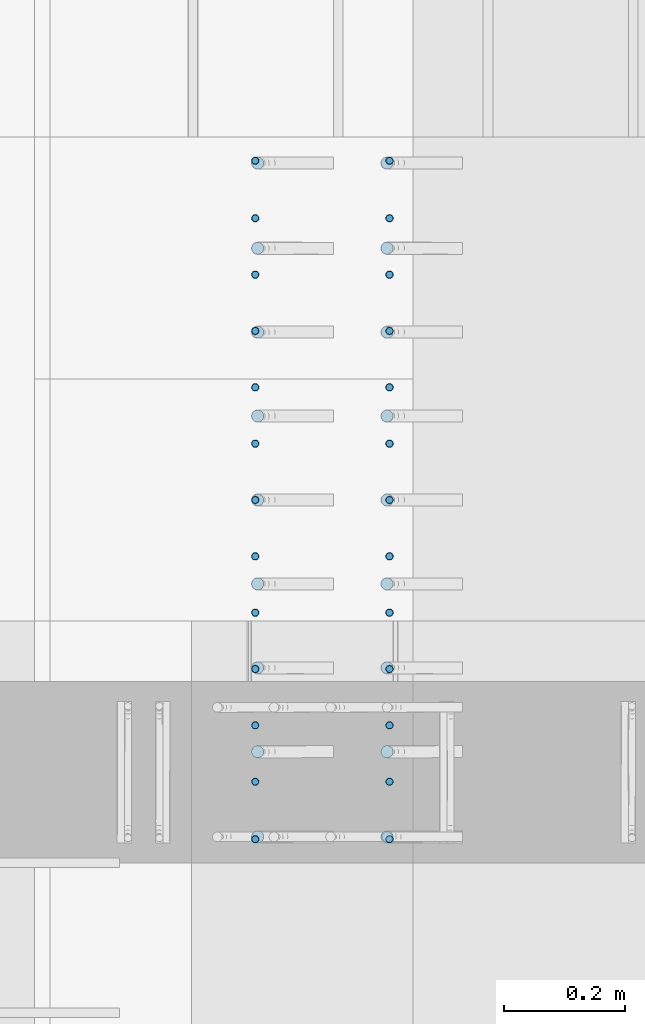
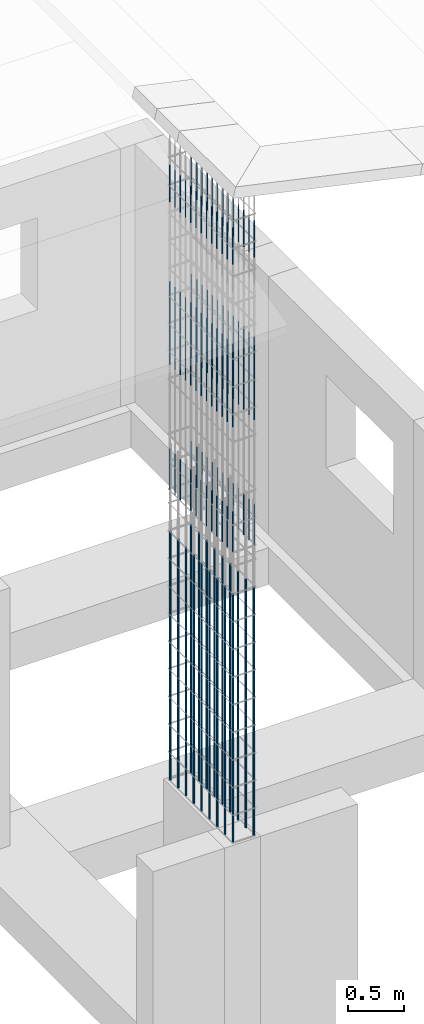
# One storey, part 7 of 15: 5 reinforcing bars.
"""IFC4 building model written with IfcOpenShell, lengths in metres."""

from ifc_helpers import new_model, entity, si_unit, origin_with_axes, place, context, project, spatial, source, transform, mapped, element, save


model = new_model("IFC4")

# Units and contexts
model_context = context("Model", 3, precision=1e-05, world=origin_with_axes())
ifc_project = project(units=[si_unit("LENGTHUNIT", "METRE"), si_unit("AREAUNIT", "SQUARE_METRE"), si_unit("VOLUMEUNIT", "CUBIC_METRE"), si_unit("MASSUNIT", "GRAM", prefix="KILO"), si_unit("TIMEUNIT", "SECOND"), si_unit("PLANEANGLEUNIT", "RADIAN"), si_unit("SOLIDANGLEUNIT", "STERADIAN"), si_unit("THERMODYNAMICTEMPERATUREUNIT", "DEGREE_CELSIUS")], contexts=[model_context])

# Site, building, storey
placement_1 = place(None, origin_with_axes())
site = spatial("IfcSite", under=ifc_project, at=placement_1, Name="Italia", CompositionType="ELEMENT")
building = spatial("IfcBuilding", under=site, at=placement_1, Name="Bifamiliare", CompositionType="ELEMENT")
storey = spatial("IfcBuildingStorey", under=building, at=placement_1, Name="Storey 0", CompositionType="ELEMENT", Elevation=0.0)

# Reinforcing bars
shared_shape_1 = source(origin_with_axes(), model_context, "Body", "AdvancedSweptSolid", [
    entity("IfcSweptDiskSolid", entity("IfcIndexedPolyCurve", entity("IfcCartesianPointList3D", [[10.757, 2.557, 2.8], [10.757, 2.557, 3.25]]), [entity("IfcLineIndex", [1, 2])], False), 0.01),
])
placement_2 = place(placement_1, origin_with_axes())
reinforcing_bar_1_placement = place(placement_2, origin_with_axes())
element("IfcReinforcingBar", 1, at=reinforcing_bar_1_placement, inside=storey, BarLength=0.45, CrossSectionArea=0.00031416, NominalDiameter=0.02, context=model_context, shape_type="MappedRepresentation", body=[
    mapped(shared_shape_1, transform((-0.214001, -0.2795, 0.45), x_axis=(1.0, 0.0, 0.0), y_axis=(0.0, 1.0, 0.0), z_axis=(0.0, 0.0, 1.0), scale=1.0)),
    mapped(shared_shape_1, transform((-0.214001, -0.14075, 0.45), x_axis=(1.0, 0.0, 0.0), y_axis=(0.0, 1.0, 0.0), z_axis=(0.0, 0.0, 1.0), scale=1.0)),
    mapped(shared_shape_1, transform((-0.214001, -0.69575, 0.45), x_axis=(1.0, 0.0, 0.0), y_axis=(0.0, 1.0, 0.0), z_axis=(0.0, 0.0, 1.0), scale=1.0)),
    mapped(shared_shape_1, transform((-0.214001, -0.69575, 0.9), x_axis=(1.0, 0.0, 0.0), y_axis=(0.0, 1.0, 0.0), z_axis=(0.0, 0.0, 1.0), scale=1.0)),
    mapped(shared_shape_1, transform((-0.214001, -0.8345, 0.9), x_axis=(1.0, 0.0, 0.0), y_axis=(0.0, 1.0, 0.0), z_axis=(0.0, 0.0, 1.0), scale=1.0)),
    mapped(shared_shape_1, transform((-0.214001, -0.557, 0.45), x_axis=(1.0, 0.0, 0.0), y_axis=(0.0, 1.0, 0.0), z_axis=(0.0, 0.0, 1.0), scale=1.0)),
    mapped(shared_shape_1, transform((-0.214001, 0.0, 0.45), x_axis=(1.0, 0.0, 0.0), y_axis=(0.0, 1.0, 0.0), z_axis=(0.0, 0.0, 1.0), scale=1.0)),
    mapped(shared_shape_1, transform((-0.214001, -0.8345, 0.45), x_axis=(1.0, 0.0, 0.0), y_axis=(0.0, 1.0, 0.0), z_axis=(0.0, 0.0, 1.0), scale=1.0)),
    mapped(shared_shape_1, transform((-0.214001, -0.97325, 0.45), x_axis=(1.0, 0.0, 0.0), y_axis=(0.0, 1.0, 0.0), z_axis=(0.0, 0.0, 1.0), scale=1.0)),
    mapped(shared_shape_1, transform((-0.214001, -0.41825, 0.45), x_axis=(1.0, 0.0, 0.0), y_axis=(0.0, 1.0, 0.0), z_axis=(0.0, 0.0, 1.0), scale=1.0)),
    mapped(shared_shape_1, transform((0.0, -0.2795, 0.0), x_axis=(1.0, 0.0, 0.0), y_axis=(0.0, 1.0, 0.0), z_axis=(0.0, 0.0, 1.0), scale=1.0)),
    mapped(shared_shape_1, transform((0.0, -1.114, 0.9), x_axis=(1.0, 0.0, 0.0), y_axis=(0.0, 1.0, 0.0), z_axis=(0.0, 0.0, 1.0), scale=1.0)),
    mapped(shared_shape_1, transform((0.0, -0.97325, 0.0), x_axis=(1.0, 0.0, 0.0), y_axis=(0.0, 1.0, 0.0), z_axis=(0.0, 0.0, 1.0), scale=1.0)),
    mapped(shared_shape_1, transform((-0.214001, -0.97325, 0.9), x_axis=(1.0, 0.0, 0.0), y_axis=(0.0, 1.0, 0.0), z_axis=(0.0, 0.0, 1.0), scale=1.0)),
    mapped(shared_shape_1, transform((-0.214001, -1.114, 0.0), x_axis=(1.0, 0.0, 0.0), y_axis=(0.0, 1.0, 0.0), z_axis=(0.0, 0.0, 1.0), scale=1.0)),
    mapped(shared_shape_1, transform((-0.214001, -0.69575, 0.0), x_axis=(1.0, 0.0, 0.0), y_axis=(0.0, 1.0, 0.0), z_axis=(0.0, 0.0, 1.0), scale=1.0)),
    mapped(shared_shape_1, transform((-0.214001, -0.8345, 0.0), x_axis=(1.0, 0.0, 0.0), y_axis=(0.0, 1.0, 0.0), z_axis=(0.0, 0.0, 1.0), scale=1.0)),
    mapped(shared_shape_1, transform((0.0, -0.69575, 0.0), x_axis=(1.0, 0.0, 0.0), y_axis=(0.0, 1.0, 0.0), z_axis=(0.0, 0.0, 1.0), scale=1.0)),
    mapped(shared_shape_1, transform((0.0, -0.14075, 0.0), x_axis=(1.0, 0.0, 0.0), y_axis=(0.0, 1.0, 0.0), z_axis=(0.0, 0.0, 1.0), scale=1.0)),
    mapped(shared_shape_1, transform((-0.214001, -0.97325, 0.0), x_axis=(1.0, 0.0, 0.0), y_axis=(0.0, 1.0, 0.0), z_axis=(0.0, 0.0, 1.0), scale=1.0)),
    mapped(shared_shape_1, transform((0.0, -0.69575, 0.45), x_axis=(1.0, 0.0, 0.0), y_axis=(0.0, 1.0, 0.0), z_axis=(0.0, 0.0, 1.0), scale=1.0)),
    mapped(shared_shape_1, transform((0.0, -0.557, 0.45), x_axis=(1.0, 0.0, 0.0), y_axis=(0.0, 1.0, 0.0), z_axis=(0.0, 0.0, 1.0), scale=1.0)),
    mapped(shared_shape_1, transform((0.0, -0.8345, 0.45), x_axis=(1.0, 0.0, 0.0), y_axis=(0.0, 1.0, 0.0), z_axis=(0.0, 0.0, 1.0), scale=1.0)),
    mapped(shared_shape_1, transform((-0.214001, -1.114, 0.45), x_axis=(1.0, 0.0, 0.0), y_axis=(0.0, 1.0, 0.0), z_axis=(0.0, 0.0, 1.0), scale=1.0)),
    mapped(shared_shape_1, transform((0.0, -0.557, 0.9), x_axis=(1.0, 0.0, 0.0), y_axis=(0.0, 1.0, 0.0), z_axis=(0.0, 0.0, 1.0), scale=1.0)),
    mapped(shared_shape_1, transform((0.0, -0.8345, 0.9), x_axis=(1.0, 0.0, 0.0), y_axis=(0.0, 1.0, 0.0), z_axis=(0.0, 0.0, 1.0), scale=1.0)),
    mapped(shared_shape_1, transform((0.0, -0.69575, 0.9), x_axis=(1.0, 0.0, 0.0), y_axis=(0.0, 1.0, 0.0), z_axis=(0.0, 0.0, 1.0), scale=1.0)),
    mapped(shared_shape_1, transform((0.0, -0.97325, 0.9), x_axis=(1.0, 0.0, 0.0), y_axis=(0.0, 1.0, 0.0), z_axis=(0.0, 0.0, 1.0), scale=1.0)),
    mapped(shared_shape_1, transform((-0.214001, -0.557, 0.9), x_axis=(1.0, 0.0, 0.0), y_axis=(0.0, 1.0, 0.0), z_axis=(0.0, 0.0, 1.0), scale=1.0)),
    mapped(shared_shape_1, transform((0.0, -0.41825, 0.0), x_axis=(1.0, 0.0, 0.0), y_axis=(0.0, 1.0, 0.0), z_axis=(0.0, 0.0, 1.0), scale=1.0)),
    mapped(shared_shape_1, transform((-0.214001, -0.557, 0.0), x_axis=(1.0, 0.0, 0.0), y_axis=(0.0, 1.0, 0.0), z_axis=(0.0, 0.0, 1.0), scale=1.0)),
    mapped(shared_shape_1, transform((0.0, -0.41825, 0.9), x_axis=(1.0, 0.0, 0.0), y_axis=(0.0, 1.0, 0.0), z_axis=(0.0, 0.0, 1.0), scale=1.0)),
    mapped(shared_shape_1, transform((0.0, -0.41825, 0.45), x_axis=(1.0, 0.0, 0.0), y_axis=(0.0, 1.0, 0.0), z_axis=(0.0, 0.0, 1.0), scale=1.0)),
    mapped(shared_shape_1, transform((-0.214001, -1.114, 0.9), x_axis=(1.0, 0.0, 0.0), y_axis=(0.0, 1.0, 0.0), z_axis=(0.0, 0.0, 1.0), scale=1.0)),
    mapped(shared_shape_1, transform((0.0, -0.41825, 1.35), x_axis=(1.0, 0.0, 0.0), y_axis=(0.0, 1.0, 0.0), z_axis=(0.0, 0.0, 1.0), scale=1.0)),
    mapped(shared_shape_1, transform((0.0, -0.557, 1.35), x_axis=(1.0, 0.0, 0.0), y_axis=(0.0, 1.0, 0.0), z_axis=(0.0, 0.0, 1.0), scale=1.0)),
    mapped(shared_shape_1, transform((0.0, -0.69575, 1.35), x_axis=(1.0, 0.0, 0.0), y_axis=(0.0, 1.0, 0.0), z_axis=(0.0, 0.0, 1.0), scale=1.0)),
    mapped(shared_shape_1, transform((0.0, -0.8345, 1.35), x_axis=(1.0, 0.0, 0.0), y_axis=(0.0, 1.0, 0.0), z_axis=(0.0, 0.0, 1.0), scale=1.0)),
    mapped(shared_shape_1, transform((0.0, -0.97325, 1.35), x_axis=(1.0, 0.0, 0.0), y_axis=(0.0, 1.0, 0.0), z_axis=(0.0, 0.0, 1.0), scale=1.0)),
    mapped(shared_shape_1, transform((0.0, -0.8345, 0.0), x_axis=(1.0, 0.0, 0.0), y_axis=(0.0, 1.0, 0.0), z_axis=(0.0, 0.0, 1.0), scale=1.0)),
    mapped(shared_shape_1, transform((-0.214001, -0.2795, 0.0), x_axis=(1.0, 0.0, 0.0), y_axis=(0.0, 1.0, 0.0), z_axis=(0.0, 0.0, 1.0), scale=1.0)),
    mapped(shared_shape_1, transform((-0.214001, 0.0, 1.8), x_axis=(1.0, 0.0, 0.0), y_axis=(0.0, 1.0, 0.0), z_axis=(0.0, 0.0, 1.0), scale=1.0)),
    mapped(shared_shape_1, transform((-0.214001, -0.2795, 0.9), x_axis=(1.0, 0.0, 0.0), y_axis=(0.0, 1.0, 0.0), z_axis=(0.0, 0.0, 1.0), scale=1.0)),
    mapped(shared_shape_1, transform((-0.214001, -0.41825, 0.9), x_axis=(1.0, 0.0, 0.0), y_axis=(0.0, 1.0, 0.0), z_axis=(0.0, 0.0, 1.0), scale=1.0)),
    mapped(shared_shape_1, transform((-0.214001, -0.8345, 1.8), x_axis=(1.0, 0.0, 0.0), y_axis=(0.0, 1.0, 0.0), z_axis=(0.0, 0.0, 1.0), scale=1.0)),
    mapped(shared_shape_1, transform((0.0, 0.0, 0.0), x_axis=(1.0, 0.0, 0.0), y_axis=(0.0, 1.0, 0.0), z_axis=(0.0, 0.0, 1.0), scale=1.0)),
    mapped(shared_shape_1, transform((-0.214001, -0.14075, 0.0), x_axis=(1.0, 0.0, 0.0), y_axis=(0.0, 1.0, 0.0), z_axis=(0.0, 0.0, 1.0), scale=1.0)),
    mapped(shared_shape_1, transform((-0.214001, -0.14075, 0.9), x_axis=(1.0, 0.0, 0.0), y_axis=(0.0, 1.0, 0.0), z_axis=(0.0, 0.0, 1.0), scale=1.0)),
    mapped(shared_shape_1, transform((0.0, -0.557, 0.0), x_axis=(1.0, 0.0, 0.0), y_axis=(0.0, 1.0, 0.0), z_axis=(0.0, 0.0, 1.0), scale=1.0)),
    mapped(shared_shape_1, transform((-0.214001, -0.2795, 1.8), x_axis=(1.0, 0.0, 0.0), y_axis=(0.0, 1.0, 0.0), z_axis=(0.0, 0.0, 1.0), scale=1.0)),
    mapped(shared_shape_1, transform((-0.214001, -0.557, 2.25), x_axis=(1.0, 0.0, 0.0), y_axis=(0.0, 1.0, 0.0), z_axis=(0.0, 0.0, 1.0), scale=1.0)),
    mapped(shared_shape_1, transform((-0.214001, -0.41825, 0.0), x_axis=(1.0, 0.0, 0.0), y_axis=(0.0, 1.0, 0.0), z_axis=(0.0, 0.0, 1.0), scale=1.0)),
    mapped(shared_shape_1, transform((0.0, 0.0, 1.35), x_axis=(1.0, 0.0, 0.0), y_axis=(0.0, 1.0, 0.0), z_axis=(0.0, 0.0, 1.0), scale=1.0)),
    mapped(shared_shape_1, transform((0.0, -0.2795, 1.35), x_axis=(1.0, 0.0, 0.0), y_axis=(0.0, 1.0, 0.0), z_axis=(0.0, 0.0, 1.0), scale=1.0)),
    mapped(shared_shape_1, transform((0.0, 0.0, 0.9), x_axis=(1.0, 0.0, 0.0), y_axis=(0.0, 1.0, 0.0), z_axis=(0.0, 0.0, 1.0), scale=1.0)),
    mapped(shared_shape_1, transform((0.0, -0.2795, 0.9), x_axis=(1.0, 0.0, 0.0), y_axis=(0.0, 1.0, 0.0), z_axis=(0.0, 0.0, 1.0), scale=1.0)),
    mapped(shared_shape_1, transform((0.0, -0.14075, 1.35), x_axis=(1.0, 0.0, 0.0), y_axis=(0.0, 1.0, 0.0), z_axis=(0.0, 0.0, 1.0), scale=1.0)),
    mapped(shared_shape_1, transform((0.0, -0.14075, 0.9), x_axis=(1.0, 0.0, 0.0), y_axis=(0.0, 1.0, 0.0), z_axis=(0.0, 0.0, 1.0), scale=1.0)),
    mapped(shared_shape_1, transform((0.0, -0.14075, 0.45), x_axis=(1.0, 0.0, 0.0), y_axis=(0.0, 1.0, 0.0), z_axis=(0.0, 0.0, 1.0), scale=1.0)),
    mapped(shared_shape_1, transform((0.0, 0.0, 0.45), x_axis=(1.0, 0.0, 0.0), y_axis=(0.0, 1.0, 0.0), z_axis=(0.0, 0.0, 1.0), scale=1.0)),
    mapped(shared_shape_1, transform((0.0, -0.2795, 0.45), x_axis=(1.0, 0.0, 0.0), y_axis=(0.0, 1.0, 0.0), z_axis=(0.0, 0.0, 1.0), scale=1.0)),
    mapped(shared_shape_1, transform((-0.214001, -1.114, 1.35), x_axis=(1.0, 0.0, 0.0), y_axis=(0.0, 1.0, 0.0), z_axis=(0.0, 0.0, 1.0), scale=1.0)),
    mapped(shared_shape_1, transform((-0.214001, 0.0, 0.9), x_axis=(1.0, 0.0, 0.0), y_axis=(0.0, 1.0, 0.0), z_axis=(0.0, 0.0, 1.0), scale=1.0)),
    mapped(shared_shape_1, transform((-0.214001, -0.557, 1.8), x_axis=(1.0, 0.0, 0.0), y_axis=(0.0, 1.0, 0.0), z_axis=(0.0, 0.0, 1.0), scale=1.0)),
    mapped(shared_shape_1, transform((-0.214001, -1.114, 1.8), x_axis=(1.0, 0.0, 0.0), y_axis=(0.0, 1.0, 0.0), z_axis=(0.0, 0.0, 1.0), scale=1.0)),
    mapped(shared_shape_1, transform((0.0, -0.97325, 2.25), x_axis=(1.0, 0.0, 0.0), y_axis=(0.0, 1.0, 0.0), z_axis=(0.0, 0.0, 1.0), scale=1.0)),
    mapped(shared_shape_1, transform((-0.214001, -0.69575, 1.8), x_axis=(1.0, 0.0, 0.0), y_axis=(0.0, 1.0, 0.0), z_axis=(0.0, 0.0, 1.0), scale=1.0)),
    mapped(shared_shape_1, transform((0.0, -0.97325, 0.45), x_axis=(1.0, 0.0, 0.0), y_axis=(0.0, 1.0, 0.0), z_axis=(0.0, 0.0, 1.0), scale=1.0)),
    mapped(shared_shape_1, transform((-0.214001, 0.0, 0.0), x_axis=(1.0, 0.0, 0.0), y_axis=(0.0, 1.0, 0.0), z_axis=(0.0, 0.0, 1.0), scale=1.0)),
    mapped(shared_shape_1, transform((-0.214001, -0.41825, 1.8), x_axis=(1.0, 0.0, 0.0), y_axis=(0.0, 1.0, 0.0), z_axis=(0.0, 0.0, 1.0), scale=1.0)),
    mapped(shared_shape_1, transform((-0.214001, -1.114, 2.25), x_axis=(1.0, 0.0, 0.0), y_axis=(0.0, 1.0, 0.0), z_axis=(0.0, 0.0, 1.0), scale=1.0)),
    mapped(shared_shape_1, transform((-0.214001, -0.97325, 1.35), x_axis=(1.0, 0.0, 0.0), y_axis=(0.0, 1.0, 0.0), z_axis=(0.0, 0.0, 1.0), scale=1.0)),
    mapped(shared_shape_1, transform((0.0, -0.8345, 1.8), x_axis=(1.0, 0.0, 0.0), y_axis=(0.0, 1.0, 0.0), z_axis=(0.0, 0.0, 1.0), scale=1.0)),
    mapped(shared_shape_1, transform((0.0, -1.114, 0.45), x_axis=(1.0, 0.0, 0.0), y_axis=(0.0, 1.0, 0.0), z_axis=(0.0, 0.0, 1.0), scale=1.0)),
    mapped(shared_shape_1, transform((-0.214001, -0.69575, 1.35), x_axis=(1.0, 0.0, 0.0), y_axis=(0.0, 1.0, 0.0), z_axis=(0.0, 0.0, 1.0), scale=1.0)),
    mapped(shared_shape_1, transform((-0.214001, -0.14075, 1.8), x_axis=(1.0, 0.0, 0.0), y_axis=(0.0, 1.0, 0.0), z_axis=(0.0, 0.0, 1.0), scale=1.0)),
    mapped(shared_shape_1, transform((-0.214001, -0.41825, 2.25), x_axis=(1.0, 0.0, 0.0), y_axis=(0.0, 1.0, 0.0), z_axis=(0.0, 0.0, 1.0), scale=1.0)),
    mapped(shared_shape_1, transform((0.0, -1.114, 0.0), x_axis=(1.0, 0.0, 0.0), y_axis=(0.0, 1.0, 0.0), z_axis=(0.0, 0.0, 1.0), scale=1.0)),
    mapped(shared_shape_1, transform((0.0, -1.114, 2.25), x_axis=(1.0, 0.0, 0.0), y_axis=(0.0, 1.0, 0.0), z_axis=(0.0, 0.0, 1.0), scale=1.0)),
    mapped(shared_shape_1, transform((-0.214001, -0.97325, 2.25), x_axis=(1.0, 0.0, 0.0), y_axis=(0.0, 1.0, 0.0), z_axis=(0.0, 0.0, 1.0), scale=1.0)),
    mapped(shared_shape_1, transform((-0.214001, -0.97325, 1.8), x_axis=(1.0, 0.0, 0.0), y_axis=(0.0, 1.0, 0.0), z_axis=(0.0, 0.0, 1.0), scale=1.0)),
    mapped(shared_shape_1, transform((0.0, -0.8345, 2.25), x_axis=(1.0, 0.0, 0.0), y_axis=(0.0, 1.0, 0.0), z_axis=(0.0, 0.0, 1.0), scale=1.0)),
    mapped(shared_shape_1, transform((-0.214001, -0.557, 1.35), x_axis=(1.0, 0.0, 0.0), y_axis=(0.0, 1.0, 0.0), z_axis=(0.0, 0.0, 1.0), scale=1.0)),
    mapped(shared_shape_1, transform((-0.214001, -0.14075, 1.35), x_axis=(1.0, 0.0, 0.0), y_axis=(0.0, 1.0, 0.0), z_axis=(0.0, 0.0, 1.0), scale=1.0)),
    mapped(shared_shape_1, transform((-0.214001, -0.69575, 2.25), x_axis=(1.0, 0.0, 0.0), y_axis=(0.0, 1.0, 0.0), z_axis=(0.0, 0.0, 1.0), scale=1.0)),
    mapped(shared_shape_1, transform((-0.214001, -0.8345, 1.35), x_axis=(1.0, 0.0, 0.0), y_axis=(0.0, 1.0, 0.0), z_axis=(0.0, 0.0, 1.0), scale=1.0)),
    mapped(shared_shape_1, transform((0.0, -0.41825, 2.25), x_axis=(1.0, 0.0, 0.0), y_axis=(0.0, 1.0, 0.0), z_axis=(0.0, 0.0, 1.0), scale=1.0)),
    mapped(shared_shape_1, transform((0.0, -0.557, 2.25), x_axis=(1.0, 0.0, 0.0), y_axis=(0.0, 1.0, 0.0), z_axis=(0.0, 0.0, 1.0), scale=1.0)),
    mapped(shared_shape_1, transform((0.0, -0.69575, 2.25), x_axis=(1.0, 0.0, 0.0), y_axis=(0.0, 1.0, 0.0), z_axis=(0.0, 0.0, 1.0), scale=1.0)),
    mapped(shared_shape_1, transform((0.0, -0.557, 1.8), x_axis=(1.0, 0.0, 0.0), y_axis=(0.0, 1.0, 0.0), z_axis=(0.0, 0.0, 1.0), scale=1.0)),
    mapped(shared_shape_1, transform((0.0, -0.41825, 1.8), x_axis=(1.0, 0.0, 0.0), y_axis=(0.0, 1.0, 0.0), z_axis=(0.0, 0.0, 1.0), scale=1.0)),
    mapped(shared_shape_1, transform((0.0, -0.69575, 1.8), x_axis=(1.0, 0.0, 0.0), y_axis=(0.0, 1.0, 0.0), z_axis=(0.0, 0.0, 1.0), scale=1.0)),
    mapped(shared_shape_1, transform((-0.214001, 0.0, 2.25), x_axis=(1.0, 0.0, 0.0), y_axis=(0.0, 1.0, 0.0), z_axis=(0.0, 0.0, 1.0), scale=1.0)),
    mapped(shared_shape_1, transform((0.0, -1.114, 1.35), x_axis=(1.0, 0.0, 0.0), y_axis=(0.0, 1.0, 0.0), z_axis=(0.0, 0.0, 1.0), scale=1.0)),
    mapped(shared_shape_1, transform((-0.214001, 0.0, 1.35), x_axis=(1.0, 0.0, 0.0), y_axis=(0.0, 1.0, 0.0), z_axis=(0.0, 0.0, 1.0), scale=1.0)),
    mapped(shared_shape_1, transform((-0.214001, -0.8345, 2.25), x_axis=(1.0, 0.0, 0.0), y_axis=(0.0, 1.0, 0.0), z_axis=(0.0, 0.0, 1.0), scale=1.0)),
    mapped(shared_shape_1, transform((0.0, -0.97325, 1.8), x_axis=(1.0, 0.0, 0.0), y_axis=(0.0, 1.0, 0.0), z_axis=(0.0, 0.0, 1.0), scale=1.0)),
    mapped(shared_shape_1, transform((-0.214001, -0.14075, 2.25), x_axis=(1.0, 0.0, 0.0), y_axis=(0.0, 1.0, 0.0), z_axis=(0.0, 0.0, 1.0), scale=1.0)),
    mapped(shared_shape_1, transform((-0.214001, -0.2795, 2.25), x_axis=(1.0, 0.0, 0.0), y_axis=(0.0, 1.0, 0.0), z_axis=(0.0, 0.0, 1.0), scale=1.0)),
    mapped(shared_shape_1, transform((-0.214001, -0.2795, 1.35), x_axis=(1.0, 0.0, 0.0), y_axis=(0.0, 1.0, 0.0), z_axis=(0.0, 0.0, 1.0), scale=1.0)),
    mapped(shared_shape_1, transform((-0.214001, -0.41825, 1.35), x_axis=(1.0, 0.0, 0.0), y_axis=(0.0, 1.0, 0.0), z_axis=(0.0, 0.0, 1.0), scale=1.0)),
    mapped(shared_shape_1, transform((0.0, 0.0, 1.8), x_axis=(1.0, 0.0, 0.0), y_axis=(0.0, 1.0, 0.0), z_axis=(0.0, 0.0, 1.0), scale=1.0)),
    mapped(shared_shape_1, transform((0.0, -0.2795, 1.8), x_axis=(1.0, 0.0, 0.0), y_axis=(0.0, 1.0, 0.0), z_axis=(0.0, 0.0, 1.0), scale=1.0)),
    mapped(shared_shape_1, transform((0.0, -0.14075, 2.25), x_axis=(1.0, 0.0, 0.0), y_axis=(0.0, 1.0, 0.0), z_axis=(0.0, 0.0, 1.0), scale=1.0)),
    mapped(shared_shape_1, transform((0.0, 0.0, 2.25), x_axis=(1.0, 0.0, 0.0), y_axis=(0.0, 1.0, 0.0), z_axis=(0.0, 0.0, 1.0), scale=1.0)),
    mapped(shared_shape_1, transform((0.0, -0.2795, 2.25), x_axis=(1.0, 0.0, 0.0), y_axis=(0.0, 1.0, 0.0), z_axis=(0.0, 0.0, 1.0), scale=1.0)),
    mapped(shared_shape_1, transform((0.0, -0.14075, 1.8), x_axis=(1.0, 0.0, 0.0), y_axis=(0.0, 1.0, 0.0), z_axis=(0.0, 0.0, 1.0), scale=1.0)),
    mapped(shared_shape_1, transform((0.0, -1.114, 1.8), x_axis=(1.0, 0.0, 0.0), y_axis=(0.0, 1.0, 0.0), z_axis=(0.0, 0.0, 1.0), scale=1.0)),
])
shared_shape_2 = source(origin_with_axes(), model_context, "Body", "AdvancedSweptSolid", [
    entity("IfcSweptDiskSolid", entity("IfcIndexedPolyCurve", entity("IfcCartesianPointList3D", [[10.761, 2.561, 5.95], [10.761, 2.561, 6.39571]]), [entity("IfcLineIndex", [1, 2])], False), 0.006),
])
reinforcing_bar_2_placement = place(placement_2, origin_with_axes())
element("IfcReinforcingBar", 2, at=reinforcing_bar_2_placement, inside=storey, BarLength=0.445714, CrossSectionArea=0.0001131, NominalDiameter=0.012, context=model_context, shape_type="MappedRepresentation", body=[
    mapped(shared_shape_2, transform((0.0, -1.122, 0.0), x_axis=(1.0, 0.0, 0.0), y_axis=(0.0, 1.0, 0.0), z_axis=(0.0, 0.0, 1.0), scale=1.0)),
    mapped(shared_shape_2, transform((0.0, -1.02683, 0.0), x_axis=(1.0, 0.0, 0.0), y_axis=(0.0, 1.0, 0.0), z_axis=(0.0, 0.0, 1.0), scale=1.0)),
    mapped(shared_shape_2, transform((0.0, -0.654166, 0.0), x_axis=(1.0, 0.0, 0.0), y_axis=(0.0, 1.0, 0.0), z_axis=(0.0, 0.0, 1.0), scale=1.0)),
    mapped(shared_shape_2, transform((0.0, -0.8405, 0.0), x_axis=(1.0, 0.0, 0.0), y_axis=(0.0, 1.0, 0.0), z_axis=(0.0, 0.0, 1.0), scale=1.0)),
    mapped(shared_shape_2, transform((0.0, -0.747333, 0.0), x_axis=(1.0, 0.0, 0.0), y_axis=(0.0, 1.0, 0.0), z_axis=(0.0, 0.0, 1.0), scale=1.0)),
    mapped(shared_shape_2, transform((0.0, -0.933666, 0.0), x_axis=(1.0, 0.0, 0.0), y_axis=(0.0, 1.0, 0.0), z_axis=(0.0, 0.0, 1.0), scale=1.0)),
    mapped(shared_shape_2, transform((0.0, -0.561, 0.0), x_axis=(1.0, 0.0, 0.0), y_axis=(0.0, 1.0, 0.0), z_axis=(0.0, 0.0, 1.0), scale=1.0)),
    mapped(shared_shape_2, transform((0.0, -0.467833, 0.0), x_axis=(1.0, 0.0, 0.0), y_axis=(0.0, 1.0, 0.0), z_axis=(0.0, 0.0, 1.0), scale=1.0)),
    mapped(shared_shape_2, transform((0.0, -0.0951664, 0.0), x_axis=(1.0, 0.0, 0.0), y_axis=(0.0, 1.0, 0.0), z_axis=(0.0, 0.0, 1.0), scale=1.0)),
    mapped(shared_shape_2, transform((0.0, -0.2815, 0.0), x_axis=(1.0, 0.0, 0.0), y_axis=(0.0, 1.0, 0.0), z_axis=(0.0, 0.0, 1.0), scale=1.0)),
    mapped(shared_shape_2, transform((0.0, -0.188333, 0.0), x_axis=(1.0, 0.0, 0.0), y_axis=(0.0, 1.0, 0.0), z_axis=(0.0, 0.0, 1.0), scale=1.0)),
    mapped(shared_shape_2, transform((0.0, -0.374666, 0.0), x_axis=(1.0, 0.0, 0.0), y_axis=(0.0, 1.0, 0.0), z_axis=(0.0, 0.0, 1.0), scale=1.0)),
    mapped(shared_shape_2, transform((0.0, 0.0, 0.0), x_axis=(1.0, 0.0, 0.0), y_axis=(0.0, 1.0, 0.0), z_axis=(0.0, 0.0, 1.0), scale=1.0)),
    mapped(shared_shape_2, transform((-0.222, 0.0, 0.0), x_axis=(1.0, 0.0, 0.0), y_axis=(0.0, 1.0, 0.0), z_axis=(0.0, 0.0, 1.0), scale=1.0)),
    mapped(shared_shape_2, transform((-0.222, -0.374667, 0.0), x_axis=(1.0, 0.0, 0.0), y_axis=(0.0, 1.0, 0.0), z_axis=(0.0, 0.0, 1.0), scale=1.0)),
    mapped(shared_shape_2, transform((-0.222, -0.188333, 0.0), x_axis=(1.0, 0.0, 0.0), y_axis=(0.0, 1.0, 0.0), z_axis=(0.0, 0.0, 1.0), scale=1.0)),
    mapped(shared_shape_2, transform((-0.222, -0.2815, 0.0), x_axis=(1.0, 0.0, 0.0), y_axis=(0.0, 1.0, 0.0), z_axis=(0.0, 0.0, 1.0), scale=1.0)),
    mapped(shared_shape_2, transform((-0.222, -0.0951667, 0.0), x_axis=(1.0, 0.0, 0.0), y_axis=(0.0, 1.0, 0.0), z_axis=(0.0, 0.0, 1.0), scale=1.0)),
    mapped(shared_shape_2, transform((-0.222, -0.467833, 0.0), x_axis=(1.0, 0.0, 0.0), y_axis=(0.0, 1.0, 0.0), z_axis=(0.0, 0.0, 1.0), scale=1.0)),
    mapped(shared_shape_2, transform((-0.222, -0.561, 0.0), x_axis=(1.0, 0.0, 0.0), y_axis=(0.0, 1.0, 0.0), z_axis=(0.0, 0.0, 1.0), scale=1.0)),
    mapped(shared_shape_2, transform((-0.222, -0.933666, 0.0), x_axis=(1.0, 0.0, 0.0), y_axis=(0.0, 1.0, 0.0), z_axis=(0.0, 0.0, 1.0), scale=1.0)),
    mapped(shared_shape_2, transform((-0.222, -0.747333, 0.0), x_axis=(1.0, 0.0, 0.0), y_axis=(0.0, 1.0, 0.0), z_axis=(0.0, 0.0, 1.0), scale=1.0)),
    mapped(shared_shape_2, transform((-0.222, -0.8405, 0.0), x_axis=(1.0, 0.0, 0.0), y_axis=(0.0, 1.0, 0.0), z_axis=(0.0, 0.0, 1.0), scale=1.0)),
    mapped(shared_shape_2, transform((-0.222, -0.654167, 0.0), x_axis=(1.0, 0.0, 0.0), y_axis=(0.0, 1.0, 0.0), z_axis=(0.0, 0.0, 1.0), scale=1.0)),
    mapped(shared_shape_2, transform((-0.222, -1.02683, 0.0), x_axis=(1.0, 0.0, 0.0), y_axis=(0.0, 1.0, 0.0), z_axis=(0.0, 0.0, 1.0), scale=1.0)),
    mapped(shared_shape_2, transform((-0.222, -1.122, 0.0), x_axis=(1.0, 0.0, 0.0), y_axis=(0.0, 1.0, 0.0), z_axis=(0.0, 0.0, 1.0), scale=1.0)),
])
shared_shape_3 = source(origin_with_axes(), model_context, "Body", "AdvancedSweptSolid", [
    entity("IfcSweptDiskSolid", entity("IfcIndexedPolyCurve", entity("IfcCartesianPointList3D", [[10.761, 2.561, 7.31042], [10.761, 2.561, 7.76229]]), [entity("IfcLineIndex", [1, 2])], False), 0.006),
])
reinforcing_bar_3_placement = place(placement_2, origin_with_axes())
element("IfcReinforcingBar", 3, at=reinforcing_bar_3_placement, inside=storey, BarLength=0.451867, CrossSectionArea=0.0001131, NominalDiameter=0.012, context=model_context, shape_type="MappedRepresentation", body=[
    mapped(shared_shape_3, transform((0.0, -1.122, 0.0), x_axis=(1.0, 0.0, 0.0), y_axis=(0.0, 1.0, 0.0), z_axis=(0.0, 0.0, 1.0), scale=1.0)),
    mapped(shared_shape_3, transform((0.0, -1.02683, 0.0), x_axis=(1.0, 0.0, 0.0), y_axis=(0.0, 1.0, 0.0), z_axis=(0.0, 0.0, 1.0), scale=1.0)),
    mapped(shared_shape_3, transform((0.0, -0.654166, 0.0), x_axis=(1.0, 0.0, 0.0), y_axis=(0.0, 1.0, 0.0), z_axis=(0.0, 0.0, 1.0), scale=1.0)),
    mapped(shared_shape_3, transform((0.0, -0.8405, 0.0), x_axis=(1.0, 0.0, 0.0), y_axis=(0.0, 1.0, 0.0), z_axis=(0.0, 0.0, 1.0), scale=1.0)),
    mapped(shared_shape_3, transform((0.0, -0.747333, 0.0), x_axis=(1.0, 0.0, 0.0), y_axis=(0.0, 1.0, 0.0), z_axis=(0.0, 0.0, 1.0), scale=1.0)),
    mapped(shared_shape_3, transform((0.0, -0.933666, 0.0), x_axis=(1.0, 0.0, 0.0), y_axis=(0.0, 1.0, 0.0), z_axis=(0.0, 0.0, 1.0), scale=1.0)),
    mapped(shared_shape_3, transform((0.0, -0.561, 0.0), x_axis=(1.0, 0.0, 0.0), y_axis=(0.0, 1.0, 0.0), z_axis=(0.0, 0.0, 1.0), scale=1.0)),
    mapped(shared_shape_3, transform((0.0, -0.467833, 0.0), x_axis=(1.0, 0.0, 0.0), y_axis=(0.0, 1.0, 0.0), z_axis=(0.0, 0.0, 1.0), scale=1.0)),
    mapped(shared_shape_3, transform((0.0, -0.0951664, 0.0), x_axis=(1.0, 0.0, 0.0), y_axis=(0.0, 1.0, 0.0), z_axis=(0.0, 0.0, 1.0), scale=1.0)),
    mapped(shared_shape_3, transform((0.0, -0.2815, 0.0), x_axis=(1.0, 0.0, 0.0), y_axis=(0.0, 1.0, 0.0), z_axis=(0.0, 0.0, 1.0), scale=1.0)),
    mapped(shared_shape_3, transform((0.0, -0.188333, 0.0), x_axis=(1.0, 0.0, 0.0), y_axis=(0.0, 1.0, 0.0), z_axis=(0.0, 0.0, 1.0), scale=1.0)),
    mapped(shared_shape_3, transform((0.0, -0.374666, 0.0), x_axis=(1.0, 0.0, 0.0), y_axis=(0.0, 1.0, 0.0), z_axis=(0.0, 0.0, 1.0), scale=1.0)),
    mapped(shared_shape_3, transform((0.0, 0.0, 0.0), x_axis=(1.0, 0.0, 0.0), y_axis=(0.0, 1.0, 0.0), z_axis=(0.0, 0.0, 1.0), scale=1.0)),
    mapped(shared_shape_3, transform((-0.222, 0.0, 0.0), x_axis=(1.0, 0.0, 0.0), y_axis=(0.0, 1.0, 0.0), z_axis=(0.0, 0.0, 1.0), scale=1.0)),
    mapped(shared_shape_3, transform((-0.222, -0.374667, 0.0), x_axis=(1.0, 0.0, 0.0), y_axis=(0.0, 1.0, 0.0), z_axis=(0.0, 0.0, 1.0), scale=1.0)),
    mapped(shared_shape_3, transform((-0.222, -0.188333, 0.0), x_axis=(1.0, 0.0, 0.0), y_axis=(0.0, 1.0, 0.0), z_axis=(0.0, 0.0, 1.0), scale=1.0)),
    mapped(shared_shape_3, transform((-0.222, -0.2815, 0.0), x_axis=(1.0, 0.0, 0.0), y_axis=(0.0, 1.0, 0.0), z_axis=(0.0, 0.0, 1.0), scale=1.0)),
    mapped(shared_shape_3, transform((-0.222, -0.0951667, 0.0), x_axis=(1.0, 0.0, 0.0), y_axis=(0.0, 1.0, 0.0), z_axis=(0.0, 0.0, 1.0), scale=1.0)),
    mapped(shared_shape_3, transform((-0.222, -0.467833, 0.0), x_axis=(1.0, 0.0, 0.0), y_axis=(0.0, 1.0, 0.0), z_axis=(0.0, 0.0, 1.0), scale=1.0)),
    mapped(shared_shape_3, transform((-0.222, -0.561, 0.0), x_axis=(1.0, 0.0, 0.0), y_axis=(0.0, 1.0, 0.0), z_axis=(0.0, 0.0, 1.0), scale=1.0)),
    mapped(shared_shape_3, transform((-0.222, -0.933666, 0.0), x_axis=(1.0, 0.0, 0.0), y_axis=(0.0, 1.0, 0.0), z_axis=(0.0, 0.0, 1.0), scale=1.0)),
    mapped(shared_shape_3, transform((-0.222, -0.747333, 0.0), x_axis=(1.0, 0.0, 0.0), y_axis=(0.0, 1.0, 0.0), z_axis=(0.0, 0.0, 1.0), scale=1.0)),
    mapped(shared_shape_3, transform((-0.222, -0.8405, 0.0), x_axis=(1.0, 0.0, 0.0), y_axis=(0.0, 1.0, 0.0), z_axis=(0.0, 0.0, 1.0), scale=1.0)),
    mapped(shared_shape_3, transform((-0.222, -0.654167, 0.0), x_axis=(1.0, 0.0, 0.0), y_axis=(0.0, 1.0, 0.0), z_axis=(0.0, 0.0, 1.0), scale=1.0)),
    mapped(shared_shape_3, transform((-0.222, -1.02683, 0.0), x_axis=(1.0, 0.0, 0.0), y_axis=(0.0, 1.0, 0.0), z_axis=(0.0, 0.0, 1.0), scale=1.0)),
    mapped(shared_shape_3, transform((-0.222, -1.122, 0.0), x_axis=(1.0, 0.0, 0.0), y_axis=(0.0, 1.0, 0.0), z_axis=(0.0, 0.0, 1.0), scale=1.0)),
])
shared_shape_4 = source(origin_with_axes(), model_context, "Body", "AdvancedSweptSolid", [
    entity("IfcSweptDiskSolid", entity("IfcIndexedPolyCurve", entity("IfcCartesianPointList3D", [[10.761, 2.561, 7.76229], [10.761, 2.561, 8.21118]]), [entity("IfcLineIndex", [1, 2])], False), 0.006),
])
reinforcing_bar_4_placement = place(placement_2, origin_with_axes())
element("IfcReinforcingBar", 4, at=reinforcing_bar_4_placement, inside=storey, BarLength=0.448887, CrossSectionArea=0.0001131, NominalDiameter=0.012, context=model_context, shape_type="MappedRepresentation", body=[
    mapped(shared_shape_4, transform((0.0, -1.122, 0.0), x_axis=(1.0, 0.0, 0.0), y_axis=(0.0, 1.0, 0.0), z_axis=(0.0, 0.0, 1.0), scale=1.0)),
    mapped(shared_shape_4, transform((0.0, -1.02683, 0.0), x_axis=(1.0, 0.0, 0.0), y_axis=(0.0, 1.0, 0.0), z_axis=(0.0, 0.0, 1.0), scale=1.0)),
    mapped(shared_shape_4, transform((0.0, -0.654166, 0.0), x_axis=(1.0, 0.0, 0.0), y_axis=(0.0, 1.0, 0.0), z_axis=(0.0, 0.0, 1.0), scale=1.0)),
    mapped(shared_shape_4, transform((0.0, -0.8405, 0.0), x_axis=(1.0, 0.0, 0.0), y_axis=(0.0, 1.0, 0.0), z_axis=(0.0, 0.0, 1.0), scale=1.0)),
    mapped(shared_shape_4, transform((0.0, -0.747333, 0.0), x_axis=(1.0, 0.0, 0.0), y_axis=(0.0, 1.0, 0.0), z_axis=(0.0, 0.0, 1.0), scale=1.0)),
    mapped(shared_shape_4, transform((0.0, -0.933666, 0.0), x_axis=(1.0, 0.0, 0.0), y_axis=(0.0, 1.0, 0.0), z_axis=(0.0, 0.0, 1.0), scale=1.0)),
    mapped(shared_shape_4, transform((0.0, -0.561, 0.0), x_axis=(1.0, 0.0, 0.0), y_axis=(0.0, 1.0, 0.0), z_axis=(0.0, 0.0, 1.0), scale=1.0)),
    mapped(shared_shape_4, transform((0.0, -0.467833, 0.0), x_axis=(1.0, 0.0, 0.0), y_axis=(0.0, 1.0, 0.0), z_axis=(0.0, 0.0, 1.0), scale=1.0)),
    mapped(shared_shape_4, transform((0.0, -0.0951664, 0.0), x_axis=(1.0, 0.0, 0.0), y_axis=(0.0, 1.0, 0.0), z_axis=(0.0, 0.0, 1.0), scale=1.0)),
    mapped(shared_shape_4, transform((0.0, -0.2815, 0.0), x_axis=(1.0, 0.0, 0.0), y_axis=(0.0, 1.0, 0.0), z_axis=(0.0, 0.0, 1.0), scale=1.0)),
    mapped(shared_shape_4, transform((0.0, -0.188333, 0.0), x_axis=(1.0, 0.0, 0.0), y_axis=(0.0, 1.0, 0.0), z_axis=(0.0, 0.0, 1.0), scale=1.0)),
    mapped(shared_shape_4, transform((0.0, -0.374666, 0.0), x_axis=(1.0, 0.0, 0.0), y_axis=(0.0, 1.0, 0.0), z_axis=(0.0, 0.0, 1.0), scale=1.0)),
    mapped(shared_shape_4, transform((0.0, 0.0, 0.0), x_axis=(1.0, 0.0, 0.0), y_axis=(0.0, 1.0, 0.0), z_axis=(0.0, 0.0, 1.0), scale=1.0)),
    mapped(shared_shape_4, transform((-0.222, 0.0, 0.0), x_axis=(1.0, 0.0, 0.0), y_axis=(0.0, 1.0, 0.0), z_axis=(0.0, 0.0, 1.0), scale=1.0)),
    mapped(shared_shape_4, transform((-0.222, -0.374667, 0.0), x_axis=(1.0, 0.0, 0.0), y_axis=(0.0, 1.0, 0.0), z_axis=(0.0, 0.0, 1.0), scale=1.0)),
    mapped(shared_shape_4, transform((-0.222, -0.188333, 0.0), x_axis=(1.0, 0.0, 0.0), y_axis=(0.0, 1.0, 0.0), z_axis=(0.0, 0.0, 1.0), scale=1.0)),
    mapped(shared_shape_4, transform((-0.222, -0.2815, 0.0), x_axis=(1.0, 0.0, 0.0), y_axis=(0.0, 1.0, 0.0), z_axis=(0.0, 0.0, 1.0), scale=1.0)),
    mapped(shared_shape_4, transform((-0.222, -0.0951667, 0.0), x_axis=(1.0, 0.0, 0.0), y_axis=(0.0, 1.0, 0.0), z_axis=(0.0, 0.0, 1.0), scale=1.0)),
    mapped(shared_shape_4, transform((-0.222, -0.467833, 0.0), x_axis=(1.0, 0.0, 0.0), y_axis=(0.0, 1.0, 0.0), z_axis=(0.0, 0.0, 1.0), scale=1.0)),
    mapped(shared_shape_4, transform((-0.222, -0.561, 0.0), x_axis=(1.0, 0.0, 0.0), y_axis=(0.0, 1.0, 0.0), z_axis=(0.0, 0.0, 1.0), scale=1.0)),
    mapped(shared_shape_4, transform((-0.222, -0.933666, 0.0), x_axis=(1.0, 0.0, 0.0), y_axis=(0.0, 1.0, 0.0), z_axis=(0.0, 0.0, 1.0), scale=1.0)),
    mapped(shared_shape_4, transform((-0.222, -0.747333, 0.0), x_axis=(1.0, 0.0, 0.0), y_axis=(0.0, 1.0, 0.0), z_axis=(0.0, 0.0, 1.0), scale=1.0)),
    mapped(shared_shape_4, transform((-0.222, -0.8405, 0.0), x_axis=(1.0, 0.0, 0.0), y_axis=(0.0, 1.0, 0.0), z_axis=(0.0, 0.0, 1.0), scale=1.0)),
    mapped(shared_shape_4, transform((-0.222, -0.654167, 0.0), x_axis=(1.0, 0.0, 0.0), y_axis=(0.0, 1.0, 0.0), z_axis=(0.0, 0.0, 1.0), scale=1.0)),
    mapped(shared_shape_4, transform((-0.222, -1.02683, 0.0), x_axis=(1.0, 0.0, 0.0), y_axis=(0.0, 1.0, 0.0), z_axis=(0.0, 0.0, 1.0), scale=1.0)),
    mapped(shared_shape_4, transform((-0.222, -1.122, 0.0), x_axis=(1.0, 0.0, 0.0), y_axis=(0.0, 1.0, 0.0), z_axis=(0.0, 0.0, 1.0), scale=1.0)),
])
shared_shape_5 = source(origin_with_axes(), model_context, "Body", "AdvancedSweptSolid", [
    entity("IfcSweptDiskSolid", entity("IfcIndexedPolyCurve", entity("IfcCartesianPointList3D", [[10.761, 2.561, 9.07565], [10.761, 2.561, 9.47667]]), [entity("IfcLineIndex", [1, 2])], False), 0.006),
])
reinforcing_bar_5_placement = place(placement_2, origin_with_axes())
element("IfcReinforcingBar", 5, at=reinforcing_bar_5_placement, inside=storey, BarLength=0.401017, CrossSectionArea=0.0001131, NominalDiameter=0.012, context=model_context, shape_type="MappedRepresentation", body=[
    mapped(shared_shape_5, transform((0.0, -1.122, 0.0), x_axis=(1.0, 0.0, 0.0), y_axis=(0.0, 1.0, 0.0), z_axis=(0.0, 0.0, 1.0), scale=1.0)),
    mapped(shared_shape_5, transform((0.0, -1.02683, 0.0), x_axis=(1.0, 0.0, 0.0), y_axis=(0.0, 1.0, 0.0), z_axis=(0.0, 0.0, 1.0), scale=1.0)),
    mapped(shared_shape_5, transform((0.0, -0.654166, 0.0), x_axis=(1.0, 0.0, 0.0), y_axis=(0.0, 1.0, 0.0), z_axis=(0.0, 0.0, 1.0), scale=1.0)),
    mapped(shared_shape_5, transform((0.0, -0.8405, 0.0), x_axis=(1.0, 0.0, 0.0), y_axis=(0.0, 1.0, 0.0), z_axis=(0.0, 0.0, 1.0), scale=1.0)),
    mapped(shared_shape_5, transform((0.0, -0.747333, 0.0), x_axis=(1.0, 0.0, 0.0), y_axis=(0.0, 1.0, 0.0), z_axis=(0.0, 0.0, 1.0), scale=1.0)),
    mapped(shared_shape_5, transform((0.0, -0.933666, 0.0), x_axis=(1.0, 0.0, 0.0), y_axis=(0.0, 1.0, 0.0), z_axis=(0.0, 0.0, 1.0), scale=1.0)),
    mapped(shared_shape_5, transform((0.0, -0.561, 0.0), x_axis=(1.0, 0.0, 0.0), y_axis=(0.0, 1.0, 0.0), z_axis=(0.0, 0.0, 1.0), scale=1.0)),
    mapped(shared_shape_5, transform((0.0, -0.467833, 0.0), x_axis=(1.0, 0.0, 0.0), y_axis=(0.0, 1.0, 0.0), z_axis=(0.0, 0.0, 1.0), scale=1.0)),
    mapped(shared_shape_5, transform((0.0, -0.0951664, 0.0), x_axis=(1.0, 0.0, 0.0), y_axis=(0.0, 1.0, 0.0), z_axis=(0.0, 0.0, 1.0), scale=1.0)),
    mapped(shared_shape_5, transform((0.0, -0.2815, 0.0), x_axis=(1.0, 0.0, 0.0), y_axis=(0.0, 1.0, 0.0), z_axis=(0.0, 0.0, 1.0), scale=1.0)),
    mapped(shared_shape_5, transform((0.0, -0.188333, 0.0), x_axis=(1.0, 0.0, 0.0), y_axis=(0.0, 1.0, 0.0), z_axis=(0.0, 0.0, 1.0), scale=1.0)),
    mapped(shared_shape_5, transform((0.0, -0.374666, 0.0), x_axis=(1.0, 0.0, 0.0), y_axis=(0.0, 1.0, 0.0), z_axis=(0.0, 0.0, 1.0), scale=1.0)),
    mapped(shared_shape_5, transform((0.0, 0.0, 0.0), x_axis=(1.0, 0.0, 0.0), y_axis=(0.0, 1.0, 0.0), z_axis=(0.0, 0.0, 1.0), scale=1.0)),
    mapped(shared_shape_5, transform((-0.222, 0.0, 0.0), x_axis=(1.0, 0.0, 0.0), y_axis=(0.0, 1.0, 0.0), z_axis=(0.0, 0.0, 1.0), scale=1.0)),
    mapped(shared_shape_5, transform((-0.222, -0.374667, 0.0), x_axis=(1.0, 0.0, 0.0), y_axis=(0.0, 1.0, 0.0), z_axis=(0.0, 0.0, 1.0), scale=1.0)),
    mapped(shared_shape_5, transform((-0.222, -0.188333, 0.0), x_axis=(1.0, 0.0, 0.0), y_axis=(0.0, 1.0, 0.0), z_axis=(0.0, 0.0, 1.0), scale=1.0)),
    mapped(shared_shape_5, transform((-0.222, -0.2815, 0.0), x_axis=(1.0, 0.0, 0.0), y_axis=(0.0, 1.0, 0.0), z_axis=(0.0, 0.0, 1.0), scale=1.0)),
    mapped(shared_shape_5, transform((-0.222, -0.0951667, 0.0), x_axis=(1.0, 0.0, 0.0), y_axis=(0.0, 1.0, 0.0), z_axis=(0.0, 0.0, 1.0), scale=1.0)),
    mapped(shared_shape_5, transform((-0.222, -0.467833, 0.0), x_axis=(1.0, 0.0, 0.0), y_axis=(0.0, 1.0, 0.0), z_axis=(0.0, 0.0, 1.0), scale=1.0)),
    mapped(shared_shape_5, transform((-0.222, -0.561, 0.0), x_axis=(1.0, 0.0, 0.0), y_axis=(0.0, 1.0, 0.0), z_axis=(0.0, 0.0, 1.0), scale=1.0)),
    mapped(shared_shape_5, transform((-0.222, -0.933666, 0.0), x_axis=(1.0, 0.0, 0.0), y_axis=(0.0, 1.0, 0.0), z_axis=(0.0, 0.0, 1.0), scale=1.0)),
    mapped(shared_shape_5, transform((-0.222, -0.747333, 0.0), x_axis=(1.0, 0.0, 0.0), y_axis=(0.0, 1.0, 0.0), z_axis=(0.0, 0.0, 1.0), scale=1.0)),
    mapped(shared_shape_5, transform((-0.222, -0.8405, 0.0), x_axis=(1.0, 0.0, 0.0), y_axis=(0.0, 1.0, 0.0), z_axis=(0.0, 0.0, 1.0), scale=1.0)),
    mapped(shared_shape_5, transform((-0.222, -0.654167, 0.0), x_axis=(1.0, 0.0, 0.0), y_axis=(0.0, 1.0, 0.0), z_axis=(0.0, 0.0, 1.0), scale=1.0)),
    mapped(shared_shape_5, transform((-0.222, -1.02683, 0.0), x_axis=(1.0, 0.0, 0.0), y_axis=(0.0, 1.0, 0.0), z_axis=(0.0, 0.0, 1.0), scale=1.0)),
    mapped(shared_shape_5, transform((-0.222, -1.122, 0.0), x_axis=(1.0, 0.0, 0.0), y_axis=(0.0, 1.0, 0.0), z_axis=(0.0, 0.0, 1.0), scale=1.0)),
])

save(model, "model.ifc")
